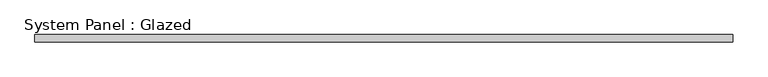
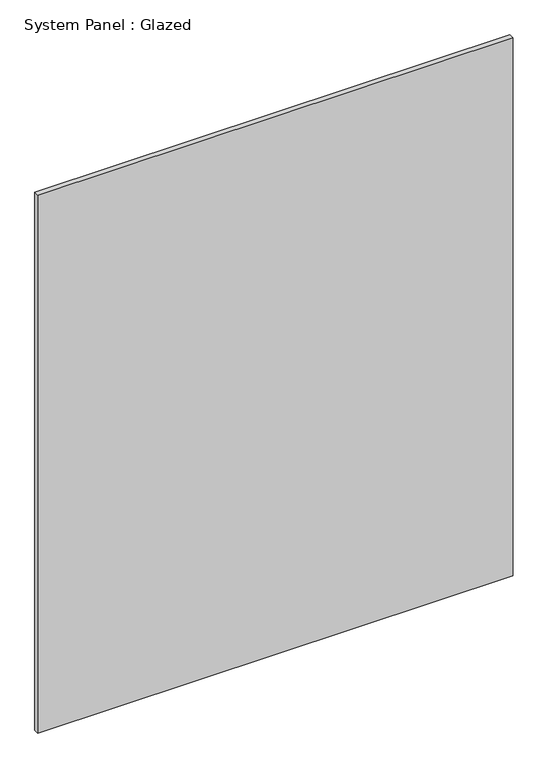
"""IFC4 building model written with IfcOpenShell, lengths in millimetres: plate geometry, System Panel : Glazed."""

from ifc_helpers import new_model, si_unit, origin, origin_with_axes, place, context, project, spatial, polyline, outline, extrude, source, transform, mapped, element, save


def system_panel_glazed_2b873caf(model_context):
    return source(origin(), model_context, "Body", "SweptSolid", [
        extrude(outline(polyline([(1247.775, -44.45), (-1247.775, -44.45), (-1247.775, -19.05), (1247.775, -19.05), (1247.775, -44.45)])), origin_with_axes(), (0.0, 0.0, 1.0), 2984.5),
    ])


if __name__ == "__main__":
    model = new_model("IFC4")
    model_context = context("Model", 3, world=origin())
    ifc_project = project(units=[si_unit("LENGTHUNIT", "METRE", prefix="MILLI")], contexts=[model_context])
    site = spatial("IfcSite", under=ifc_project)
    building = spatial("IfcBuilding", under=site)
    placement = place(None, origin())
    system_panel_glazed_shape = system_panel_glazed_2b873caf(model_context)
    element("IfcPlate", 1, ObjectType="System Panel : Glazed", at=placement, inside=building, context=model_context, shape_type="MappedRepresentation", body=[
        mapped(system_panel_glazed_shape, transform((0.0, 0.0, 0.0), x_axis=(1.0, 0.0, 0.0), y_axis=(0.0, 1.0, 0.0), z_axis=(0.0, 0.0, 1.0))),
    ])
    save(model, "model.ifc")
